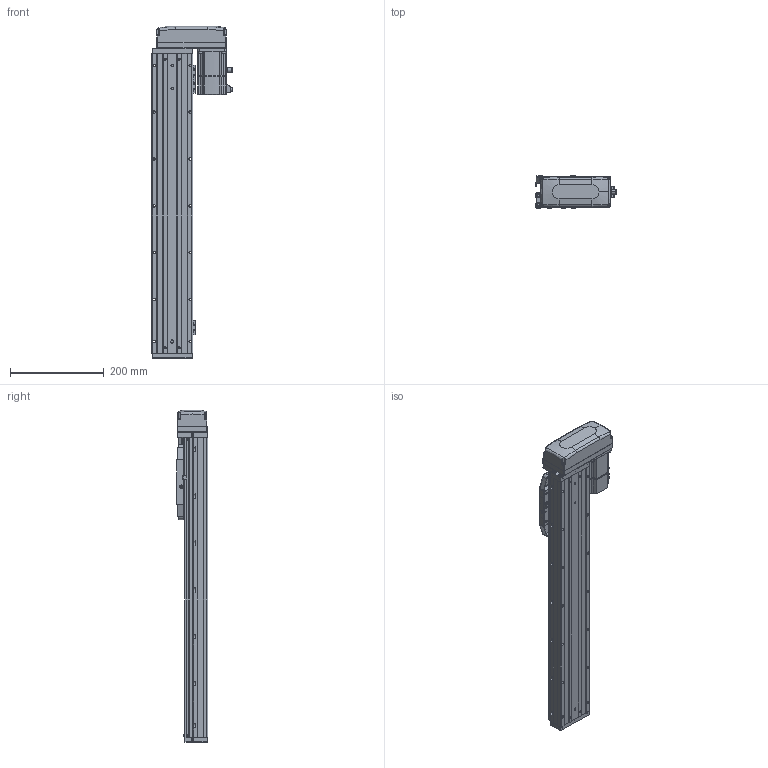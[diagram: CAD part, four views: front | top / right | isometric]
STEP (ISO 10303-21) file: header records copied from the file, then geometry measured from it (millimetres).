
FILE_DESCRIPTION (( 'STEP AP203' ), '1' );
FILE_NAME ('CTHA86-450-BL-M20-C4L.step', '2022-04-26T00:51:13', ( '微软用户' ), ( '微软中国' ), 'SwSTEP 2.0', 'SolidWorks 2020', '' );
FILE_SCHEMA (( 'CONFIG_CONTROL_DESIGN' ));
Length unit declared in the file: millimetre
Products named in the file (21): GB¨uT 70.2-M3¡Á5_M3¡Á6; GBT 70.1-M3×16; GBT 70.3-M3℅6; EE_SX911P_R; GBT 70.1-M3℅6; CTHA86-015-1_CTHA86-015-2; CTHA60-017; CTHA86-033; CTHA60-016; CTHA60-021; CTHA86-450-BL-M20-C4L; _X2_4E0983F1_X0_200W_1; KTHA86-001_640; GBT77-2000 M3×3; CTHA86-002; KTHA86-004; GBT 70.1-M3×20; CTHA86-031; KTHA86-005; GBT70.1 M5℅16; CTHA86-030
Assembly tree (66 placements, depth 2):
  CTHA86-450-BL-M20-C4L
    KTHA86-001_640
    KTHA86-004
    KTHA86-005
    GB¨uT 70.2-M3¡Á5_M3¡Á6  x10
    EE_SX911P_R  x3
    CTHA60-017  x3
    CTHA60-021  x2
    GBT77-2000 M3×3  x6
    GBT 70.1-M3×20
    GBT70.1 M5℅16  x14
    GBT 70.1-M3×16  x5
    GBT 70.1-M3℅6  x6
    CTHA60-016  x2
    _X2_4E0983F1_X0_200W_1
    CTHA86-002
    CTHA86-031
    CTHA86-030  x2
    GBT 70.3-M3℅6  x4
    CTHA86-015-1_CTHA86-015-2
    CTHA86-033
Bounding box: 172.7 x 68 x 709 mm (x, y, z)
Volume: 2968493.7 mm3; surface area: 521179.7 mm2
Topology: 68 solids, 68 shells, 2746 faces, 6540 edges, 4024 vertices
Faces by surface type: plane 1439, cylinder 711, cone 365, torus 132, bspline 75, sphere 24
Entity records: 47789 total; most frequent: CARTESIAN_POINT 9283, DIRECTION 7409, ORIENTED_EDGE 7180, EDGE_CURVE 3590, AXIS2_PLACEMENT_3D 2534, VECTOR 2341, LINE 2341, VERTEX_POINT 2256
